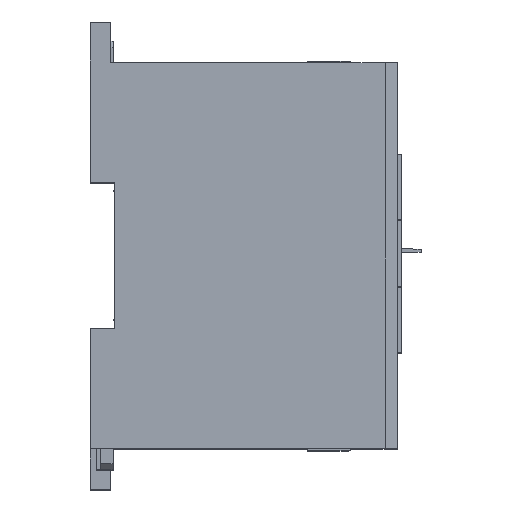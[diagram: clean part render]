
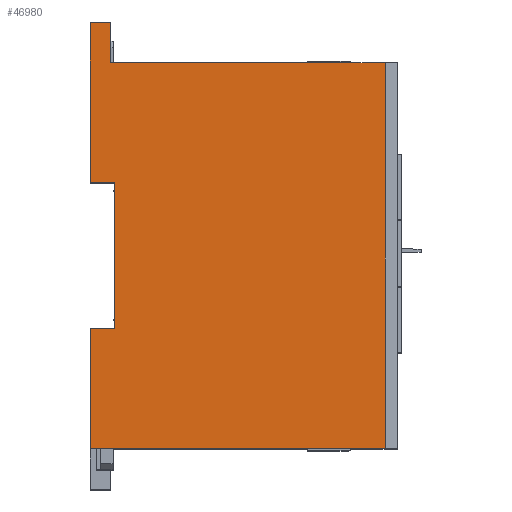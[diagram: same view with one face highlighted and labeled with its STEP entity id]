
A CAD part, top view. The second image highlights one B-rep face of the part: STEP entity #46980.
In plain terms, the highlighted planar face has unit normal (0, 0, 1).
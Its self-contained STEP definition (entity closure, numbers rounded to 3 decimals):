
#2085 = VERTEX_POINT ( 'NONE', #105459 ) ;
#4306 = ORIENTED_EDGE ( 'NONE', *, *, #74620, .T. ) ;
#4730 = CARTESIAN_POINT ( 'NONE',  ( 72., 0., 0. ) ) ;
#4872 = ORIENTED_EDGE ( 'NONE', *, *, #45552, .T. ) ;
#9086 = CARTESIAN_POINT ( 'NONE',  ( 0., 94., 0. ) ) ;
#9795 = VECTOR ( 'NONE', #58477, 1000. ) ;
#13056 = CARTESIAN_POINT ( 'NONE',  ( 5., 94., 0. ) ) ;
#19834 = CARTESIAN_POINT ( 'NONE',  ( 6., 64.8, 0. ) ) ;
#21418 = CARTESIAN_POINT ( 'NONE',  ( 0., 29.3, 0. ) ) ;
#21487 = LINE ( 'NONE', #142119, #80206 ) ;
#22334 = ORIENTED_EDGE ( 'NONE', *, *, #94827, .T. ) ;
#23323 = VECTOR ( 'NONE', #105729, 1000. ) ;
#23793 = ORIENTED_EDGE ( 'NONE', *, *, #58094, .T. ) ;
#30196 = CARTESIAN_POINT ( 'NONE',  ( 75., 0., 0. ) ) ;
#30676 = PLANE ( 'NONE',  #76411 ) ;
#31163 = VERTEX_POINT ( 'NONE', #55728 ) ;
#32434 = VECTOR ( 'NONE', #41489, 1000. ) ;
#32844 = LINE ( 'NONE', #69646, #117396 ) ;
#33668 = FACE_OUTER_BOUND ( 'NONE', #34583, .T. ) ;
#34583 = EDGE_LOOP ( 'NONE', ( #4306, #23793, #22334, #117867, #58270, #82442, #63255, #67973, #4872, #65543 ) ) ;
#35855 = LINE ( 'NONE', #52139, #32434 ) ;
#37162 = EDGE_CURVE ( 'NONE', #129487, #57010, #99887, .T. ) ;
#39281 = LINE ( 'NONE', #70121, #65172 ) ;
#41489 = DIRECTION ( 'NONE',  ( 0., 1., 0. ) ) ;
#44830 = VERTEX_POINT ( 'NONE', #118858 ) ;
#45552 = EDGE_CURVE ( 'NONE', #2085, #61859, #82770, .T. ) ;
#45722 = LINE ( 'NONE', #94634, #23323 ) ;
#46980 = ADVANCED_FACE ( 'NONE', ( #33668 ), #30676, .F. ) ;
#47612 = VERTEX_POINT ( 'NONE', #19834 ) ;
#50792 = VECTOR ( 'NONE', #75154, 1000. ) ;
#52139 = CARTESIAN_POINT ( 'NONE',  ( 72., 94., 0. ) ) ;
#52855 = DIRECTION ( 'NONE',  ( 0., 0., -1. ) ) ;
#53412 = DIRECTION ( 'NONE',  ( 0., -1., 0. ) ) ;
#55728 = CARTESIAN_POINT ( 'NONE',  ( 0., 0., 0. ) ) ;
#56006 = EDGE_CURVE ( 'NONE', #60270, #129487, #32844, .T. ) ;
#57010 = VERTEX_POINT ( 'NONE', #87233 ) ;
#58094 = EDGE_CURVE ( 'NONE', #137839, #62178, #35855, .T. ) ;
#58270 = ORIENTED_EDGE ( 'NONE', *, *, #37162, .T. ) ;
#58477 = DIRECTION ( 'NONE',  ( 0., -1., 0. ) ) ;
#58569 = DIRECTION ( 'NONE',  ( 0., 1., 0. ) ) ;
#60270 = VERTEX_POINT ( 'NONE', #13056 ) ;
#61859 = VERTEX_POINT ( 'NONE', #78757 ) ;
#62178 = VERTEX_POINT ( 'NONE', #139842 ) ;
#63106 = CARTESIAN_POINT ( 'NONE',  ( 0., 0., 0. ) ) ;
#63255 = ORIENTED_EDGE ( 'NONE', *, *, #110079, .T. ) ;
#65172 = VECTOR ( 'NONE', #103423, 1000. ) ;
#65543 = ORIENTED_EDGE ( 'NONE', *, *, #119726, .T. ) ;
#67119 = VECTOR ( 'NONE', #87826, 1000. ) ;
#67973 = ORIENTED_EDGE ( 'NONE', *, *, #85355, .T. ) ;
#69646 = CARTESIAN_POINT ( 'NONE',  ( 5., 94., 0. ) ) ;
#70121 = CARTESIAN_POINT ( 'NONE',  ( 6., 64.8, 0. ) ) ;
#70766 = CARTESIAN_POINT ( 'NONE',  ( 5., 103.8, 0. ) ) ;
#74148 = DIRECTION ( 'NONE',  ( 1., 0., 0. ) ) ;
#74620 = EDGE_CURVE ( 'NONE', #31163, #137839, #92839, .T. ) ;
#75154 = DIRECTION ( 'NONE',  ( -1., 0., 0. ) ) ;
#76411 = AXIS2_PLACEMENT_3D ( 'NONE', #30196, #52855, #130023 ) ;
#76686 = CARTESIAN_POINT ( 'NONE',  ( 0., 103.8, 0. ) ) ;
#78757 = CARTESIAN_POINT ( 'NONE',  ( 0., 29.3, 0. ) ) ;
#80206 = VECTOR ( 'NONE', #53412, 1000. ) ;
#82442 = ORIENTED_EDGE ( 'NONE', *, *, #130512, .T. ) ;
#82770 = LINE ( 'NONE', #21418, #137906 ) ;
#85355 = EDGE_CURVE ( 'NONE', #47612, #2085, #21487, .T. ) ;
#87233 = CARTESIAN_POINT ( 'NONE',  ( 0., 103.8, 0. ) ) ;
#87826 = DIRECTION ( 'NONE',  ( -1., 0., 0. ) ) ;
#92839 = LINE ( 'NONE', #63106, #122148 ) ;
#94634 = CARTESIAN_POINT ( 'NONE',  ( 0., 0., 0. ) ) ;
#94827 = EDGE_CURVE ( 'NONE', #62178, #60270, #138802, .T. ) ;
#99887 = LINE ( 'NONE', #76686, #67119 ) ;
#103423 = DIRECTION ( 'NONE',  ( 1., 0., 0. ) ) ;
#105459 = CARTESIAN_POINT ( 'NONE',  ( 6., 29.3, 0. ) ) ;
#105729 = DIRECTION ( 'NONE',  ( 0., -1., 0. ) ) ;
#110079 = EDGE_CURVE ( 'NONE', #44830, #47612, #39281, .T. ) ;
#117396 = VECTOR ( 'NONE', #58569, 1000. ) ;
#117867 = ORIENTED_EDGE ( 'NONE', *, *, #56006, .T. ) ;
#118858 = CARTESIAN_POINT ( 'NONE',  ( 0., 64.8, 0. ) ) ;
#119726 = EDGE_CURVE ( 'NONE', #61859, #31163, #45722, .T. ) ;
#122148 = VECTOR ( 'NONE', #74148, 1000. ) ;
#124471 = CARTESIAN_POINT ( 'NONE',  ( 0., 64.8, 0. ) ) ;
#127158 = LINE ( 'NONE', #124471, #9795 ) ;
#129487 = VERTEX_POINT ( 'NONE', #70766 ) ;
#130023 = DIRECTION ( 'NONE',  ( -1., 0., 0. ) ) ;
#130512 = EDGE_CURVE ( 'NONE', #57010, #44830, #127158, .T. ) ;
#130925 = DIRECTION ( 'NONE',  ( -1., 0., 0. ) ) ;
#137839 = VERTEX_POINT ( 'NONE', #4730 ) ;
#137906 = VECTOR ( 'NONE', #130925, 1000. ) ;
#138802 = LINE ( 'NONE', #9086, #50792 ) ;
#139842 = CARTESIAN_POINT ( 'NONE',  ( 72., 94., 0. ) ) ;
#142119 = CARTESIAN_POINT ( 'NONE',  ( 6., 29.3, 0. ) ) ;
